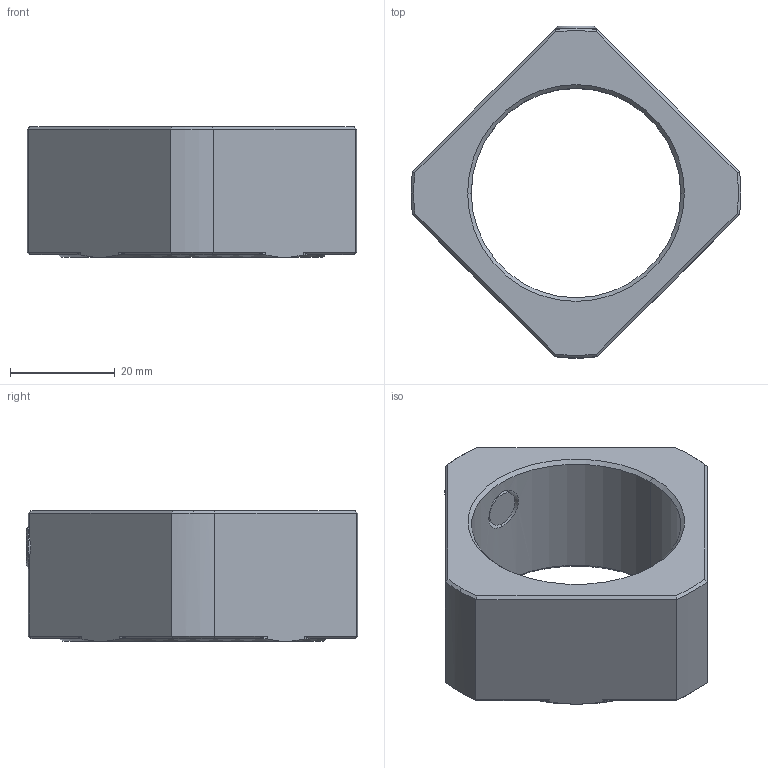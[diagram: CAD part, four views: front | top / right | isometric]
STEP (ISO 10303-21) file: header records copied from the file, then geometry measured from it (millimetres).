
FILE_DESCRIPTION (( 'STEP AP203' ), '1' );
FILE_NAME ('RN40.STEP', '2009-05-27T01:52:54', ( '冠犁泅' ), ( '俺惯何' ), 'SwSTEP 2.0', 'SolidWorks 2007', '' );
FILE_SCHEMA (( 'CONFIG_CONTROL_DESIGN' ));
Length unit declared in the file: millimetre
Products named in the file (4): RN40_NUT_晦獄 撲薑; SET PIECE D6.8x3.9L_ル遽; RN40; Socket Set Screw Flat Point_AM_B18.3.6M - M8 x 1.25 x 8 Hex Socket Flat Pt. SS --N_B18.3.6M - M8 x 1.25 x 8 Hex Socket Flat Pt. SS --N
Assembly tree (3 placements, depth 2):
  RN40
    Socket Set Screw Flat Point_AM_B18.3.6M - M8 x 1.25 x 8 Hex Socket Flat Pt. SS --N_B18.3.6M - M8 x 1.25 x 8 Hex Socket Flat Pt. SS --N
    RN40_NUT_晦獄 撲薑
    SET PIECE D6.8x3.9L_ル遽
Bounding box: 63 x 63.37 x 25 mm (x, y, z)
Volume: 29092.5 mm3; surface area: 10582.2 mm2
Topology: 3 solids, 3 shells, 80 faces, 183 edges, 109 vertices
Faces by surface type: plane 33, cone 23, cylinder 22, bspline 2
Entity records: 2870 total; most frequent: CARTESIAN_POINT 714, ORIENTED_EDGE 366, DIRECTION 366, EDGE_CURVE 183, AXIS2_PLACEMENT_3D 143, VERTEX_POINT 109, EDGE_LOOP 84, ADVANCED_FACE 80
